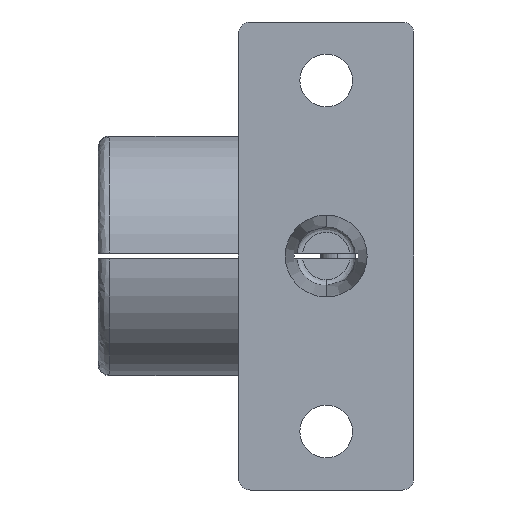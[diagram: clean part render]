
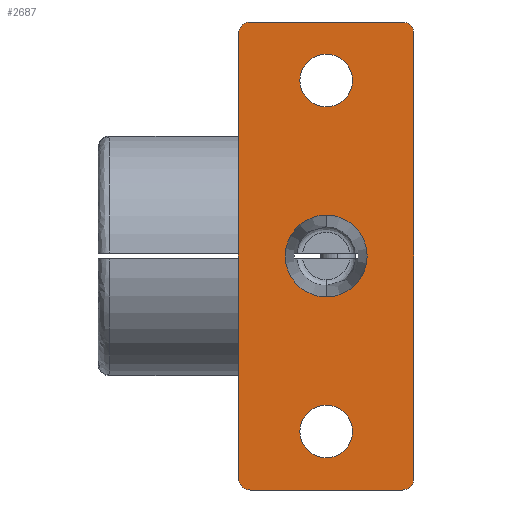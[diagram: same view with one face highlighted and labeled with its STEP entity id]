
A CAD part, front view. The second image highlights one B-rep face of the part: STEP entity #2687.
In plain terms, the highlighted planar face has unit normal (0, -1, 0).
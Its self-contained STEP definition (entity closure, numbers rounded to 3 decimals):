
#75 = EDGE_CURVE ( 'NONE', #4453, #5593, #4388, .T. ) ;
#92 = CIRCLE ( 'NONE', #2748, 7. ) ;
#229 = CARTESIAN_POINT ( 'NONE',  ( -13., -9., -38. ) ) ;
#306 = CARTESIAN_POINT ( 'NONE',  ( 13., -9., -38. ) ) ;
#336 = AXIS2_PLACEMENT_3D ( 'NONE', #306, #2048, #8658 ) ;
#439 = DIRECTION ( 'NONE',  ( 0., -1., 0. ) ) ;
#503 = ORIENTED_EDGE ( 'NONE', *, *, #8685, .F. ) ;
#513 = DIRECTION ( 'NONE',  ( 0., -1., 0. ) ) ;
#560 = CARTESIAN_POINT ( 'NONE',  ( 0., -9., 25.5 ) ) ;
#657 = DIRECTION ( 'NONE',  ( 0., 0., -1. ) ) ;
#679 = CARTESIAN_POINT ( 'NONE',  ( 15., -9., 0. ) ) ;
#715 = CARTESIAN_POINT ( 'NONE',  ( 15., -9., -38. ) ) ;
#736 = CARTESIAN_POINT ( 'NONE',  ( 0., -9., 30. ) ) ;
#737 = EDGE_CURVE ( 'NONE', #6735, #5393, #6766, .T. ) ;
#787 = ORIENTED_EDGE ( 'NONE', *, *, #6478, .F. ) ;
#799 = EDGE_CURVE ( 'NONE', #3908, #4934, #8684, .T. ) ;
#871 = ORIENTED_EDGE ( 'NONE', *, *, #5148, .F. ) ;
#952 = AXIS2_PLACEMENT_3D ( 'NONE', #6910, #6939, #8283 ) ;
#1033 = CARTESIAN_POINT ( 'NONE',  ( 0., -9., 7. ) ) ;
#1074 = CARTESIAN_POINT ( 'NONE',  ( -13., -9., -40. ) ) ;
#1167 = EDGE_LOOP ( 'NONE', ( #6454, #4738 ) ) ;
#1188 = DIRECTION ( 'NONE',  ( 0., 0., 1. ) ) ;
#1265 = DIRECTION ( 'NONE',  ( 0., 1., 0. ) ) ;
#1284 = CARTESIAN_POINT ( 'NONE',  ( 0., -9., 0. ) ) ;
#1298 = ORIENTED_EDGE ( 'NONE', *, *, #799, .F. ) ;
#1496 = ORIENTED_EDGE ( 'NONE', *, *, #5821, .F. ) ;
#1602 = DIRECTION ( 'NONE',  ( 0., 0., 1. ) ) ;
#1772 = CARTESIAN_POINT ( 'NONE',  ( 0., -9., 0. ) ) ;
#1857 = VERTEX_POINT ( 'NONE', #8545 ) ;
#1916 = CARTESIAN_POINT ( 'NONE',  ( 13., -9., 38. ) ) ;
#1919 = VERTEX_POINT ( 'NONE', #1074 ) ;
#1929 = ORIENTED_EDGE ( 'NONE', *, *, #6294, .F. ) ;
#1961 = EDGE_LOOP ( 'NONE', ( #1496, #6094, #2268, #6411, #1298, #787, #1929, #871 ) ) ;
#1975 = EDGE_CURVE ( 'NONE', #2874, #1857, #3610, .T. ) ;
#1982 = DIRECTION ( 'NONE',  ( 0., 0., -1. ) ) ;
#1989 = DIRECTION ( 'NONE',  ( -1., 0., 0. ) ) ;
#1992 = CARTESIAN_POINT ( 'NONE',  ( 13., -9., -40. ) ) ;
#1994 = CARTESIAN_POINT ( 'NONE',  ( -15., -9., -38. ) ) ;
#2048 = DIRECTION ( 'NONE',  ( 0., 1., 0. ) ) ;
#2106 = VECTOR ( 'NONE', #7691, 1000. ) ;
#2268 = ORIENTED_EDGE ( 'NONE', *, *, #75, .F. ) ;
#2278 = FACE_BOUND ( 'NONE', #6648, .T. ) ;
#2421 = EDGE_CURVE ( 'NONE', #5593, #3935, #4692, .T. ) ;
#2424 = DIRECTION ( 'NONE',  ( 0., 0., 1. ) ) ;
#2466 = CARTESIAN_POINT ( 'NONE',  ( 0., -9., -30. ) ) ;
#2493 = VECTOR ( 'NONE', #1989, 1000. ) ;
#2494 = DIRECTION ( 'NONE',  ( 0., 0., 1. ) ) ;
#2536 = CIRCLE ( 'NONE', #336, 2. ) ;
#2591 = VERTEX_POINT ( 'NONE', #3387 ) ;
#2687 = ADVANCED_FACE ( 'NONE', ( #8268, #6457, #2278, #5109 ), #6196, .F. ) ;
#2748 = AXIS2_PLACEMENT_3D ( 'NONE', #1772, #7932, #5092 ) ;
#2839 = CIRCLE ( 'NONE', #2875, 4.5 ) ;
#2874 = VERTEX_POINT ( 'NONE', #560 ) ;
#2875 = AXIS2_PLACEMENT_3D ( 'NONE', #4439, #439, #2494 ) ;
#2918 = CIRCLE ( 'NONE', #4158, 7. ) ;
#2935 = DIRECTION ( 'NONE',  ( 0., 0., -1. ) ) ;
#3181 = LINE ( 'NONE', #3310, #2493 ) ;
#3208 = LINE ( 'NONE', #679, #4796 ) ;
#3223 = DIRECTION ( 'NONE',  ( 0., 0., 1. ) ) ;
#3296 = AXIS2_PLACEMENT_3D ( 'NONE', #1916, #1265, #1982 ) ;
#3310 = CARTESIAN_POINT ( 'NONE',  ( 0., -9., -40. ) ) ;
#3347 = ORIENTED_EDGE ( 'NONE', *, *, #1975, .F. ) ;
#3365 = CARTESIAN_POINT ( 'NONE',  ( 15., -9., 38. ) ) ;
#3387 = CARTESIAN_POINT ( 'NONE',  ( 0., -9., -7. ) ) ;
#3610 = CIRCLE ( 'NONE', #3793, 4.5 ) ;
#3724 = CARTESIAN_POINT ( 'NONE',  ( 0., -9., 40. ) ) ;
#3793 = AXIS2_PLACEMENT_3D ( 'NONE', #736, #7505, #3223 ) ;
#3837 = VERTEX_POINT ( 'NONE', #1033 ) ;
#3908 = VERTEX_POINT ( 'NONE', #1994 ) ;
#3935 = VERTEX_POINT ( 'NONE', #3365 ) ;
#3977 = DIRECTION ( 'NONE',  ( 0., -1., 0. ) ) ;
#4158 = AXIS2_PLACEMENT_3D ( 'NONE', #1284, #3977, #657 ) ;
#4285 = CARTESIAN_POINT ( 'NONE',  ( 13., -9., 40. ) ) ;
#4388 = LINE ( 'NONE', #3724, #2106 ) ;
#4439 = CARTESIAN_POINT ( 'NONE',  ( 0., -9., -30. ) ) ;
#4453 = VERTEX_POINT ( 'NONE', #5562 ) ;
#4692 = CIRCLE ( 'NONE', #3296, 2. ) ;
#4738 = ORIENTED_EDGE ( 'NONE', *, *, #737, .F. ) ;
#4796 = VECTOR ( 'NONE', #5944, 1000. ) ;
#4871 = AXIS2_PLACEMENT_3D ( 'NONE', #5740, #6395, #2424 ) ;
#4929 = EDGE_CURVE ( 'NONE', #5393, #6735, #2839, .T. ) ;
#4934 = VERTEX_POINT ( 'NONE', #7885 ) ;
#5092 = DIRECTION ( 'NONE',  ( 0., 0., -1. ) ) ;
#5109 = FACE_OUTER_BOUND ( 'NONE', #1961, .T. ) ;
#5148 = EDGE_CURVE ( 'NONE', #5173, #8312, #2536, .T. ) ;
#5173 = VERTEX_POINT ( 'NONE', #715 ) ;
#5357 = EDGE_CURVE ( 'NONE', #3837, #2591, #2918, .T. ) ;
#5393 = VERTEX_POINT ( 'NONE', #5557 ) ;
#5557 = CARTESIAN_POINT ( 'NONE',  ( 0., -9., -25.5 ) ) ;
#5562 = CARTESIAN_POINT ( 'NONE',  ( -13., -9., 40. ) ) ;
#5593 = VERTEX_POINT ( 'NONE', #4285 ) ;
#5598 = CARTESIAN_POINT ( 'NONE',  ( -15., -9., 0. ) ) ;
#5740 = CARTESIAN_POINT ( 'NONE',  ( 0., -9., 30. ) ) ;
#5754 = CARTESIAN_POINT ( 'NONE',  ( -13., -9., 38. ) ) ;
#5760 = AXIS2_PLACEMENT_3D ( 'NONE', #2466, #513, #1188 ) ;
#5821 = EDGE_CURVE ( 'NONE', #3935, #5173, #3208, .T. ) ;
#5857 = EDGE_LOOP ( 'NONE', ( #503, #3347 ) ) ;
#5944 = DIRECTION ( 'NONE',  ( 0., 0., -1. ) ) ;
#6094 = ORIENTED_EDGE ( 'NONE', *, *, #2421, .F. ) ;
#6164 = EDGE_CURVE ( 'NONE', #4934, #4453, #6656, .T. ) ;
#6180 = ORIENTED_EDGE ( 'NONE', *, *, #5357, .F. ) ;
#6195 = CARTESIAN_POINT ( 'NONE',  ( 0., -9., -34.5 ) ) ;
#6196 = PLANE ( 'NONE',  #952 ) ;
#6219 = CIRCLE ( 'NONE', #8687, 2. ) ;
#6294 = EDGE_CURVE ( 'NONE', #8312, #1919, #3181, .T. ) ;
#6395 = DIRECTION ( 'NONE',  ( 0., -1., 0. ) ) ;
#6411 = ORIENTED_EDGE ( 'NONE', *, *, #6164, .F. ) ;
#6415 = DIRECTION ( 'NONE',  ( 0., 1., 0. ) ) ;
#6454 = ORIENTED_EDGE ( 'NONE', *, *, #4929, .F. ) ;
#6457 = FACE_BOUND ( 'NONE', #5857, .T. ) ;
#6478 = EDGE_CURVE ( 'NONE', #1919, #3908, #6219, .T. ) ;
#6546 = ORIENTED_EDGE ( 'NONE', *, *, #8223, .F. ) ;
#6648 = EDGE_LOOP ( 'NONE', ( #6546, #6180 ) ) ;
#6656 = CIRCLE ( 'NONE', #7727, 2. ) ;
#6735 = VERTEX_POINT ( 'NONE', #6195 ) ;
#6766 = CIRCLE ( 'NONE', #5760, 4.5 ) ;
#6910 = CARTESIAN_POINT ( 'NONE',  ( 0., -9., 0. ) ) ;
#6939 = DIRECTION ( 'NONE',  ( 0., 1., 0. ) ) ;
#7505 = DIRECTION ( 'NONE',  ( 0., -1., 0. ) ) ;
#7519 = VECTOR ( 'NONE', #1602, 1000. ) ;
#7691 = DIRECTION ( 'NONE',  ( 1., 0., 0. ) ) ;
#7727 = AXIS2_PLACEMENT_3D ( 'NONE', #5754, #6415, #7793 ) ;
#7793 = DIRECTION ( 'NONE',  ( 0., 0., -1. ) ) ;
#7885 = CARTESIAN_POINT ( 'NONE',  ( -15., -9., 38. ) ) ;
#7932 = DIRECTION ( 'NONE',  ( 0., -1., 0. ) ) ;
#7982 = CIRCLE ( 'NONE', #4871, 4.5 ) ;
#8223 = EDGE_CURVE ( 'NONE', #2591, #3837, #92, .T. ) ;
#8268 = FACE_BOUND ( 'NONE', #1167, .T. ) ;
#8283 = DIRECTION ( 'NONE',  ( 0., 0., 1. ) ) ;
#8312 = VERTEX_POINT ( 'NONE', #1992 ) ;
#8411 = DIRECTION ( 'NONE',  ( 0., 1., 0. ) ) ;
#8545 = CARTESIAN_POINT ( 'NONE',  ( 0., -9., 34.5 ) ) ;
#8658 = DIRECTION ( 'NONE',  ( 0., 0., -1. ) ) ;
#8684 = LINE ( 'NONE', #5598, #7519 ) ;
#8685 = EDGE_CURVE ( 'NONE', #1857, #2874, #7982, .T. ) ;
#8687 = AXIS2_PLACEMENT_3D ( 'NONE', #229, #8411, #2935 ) ;
